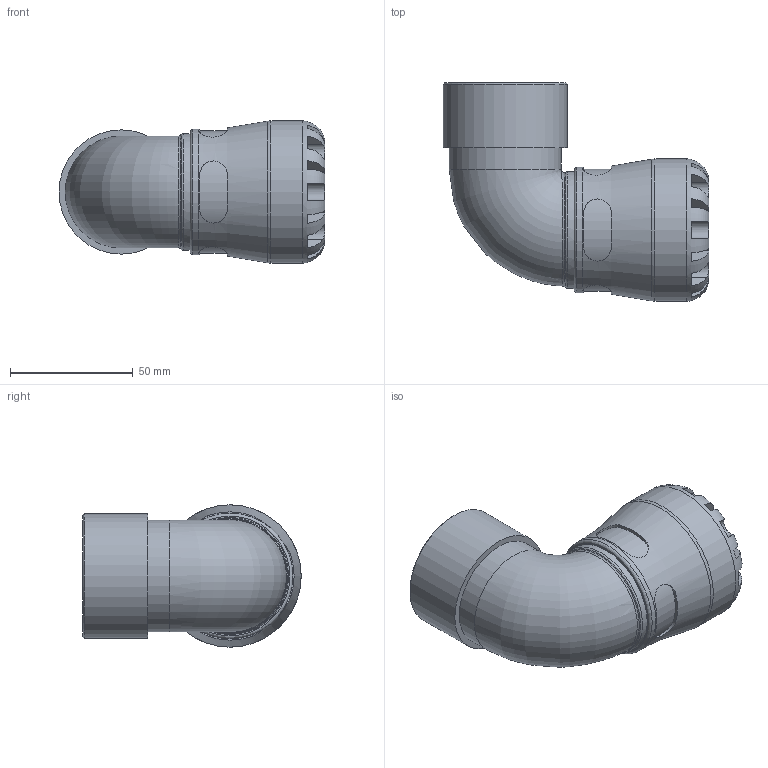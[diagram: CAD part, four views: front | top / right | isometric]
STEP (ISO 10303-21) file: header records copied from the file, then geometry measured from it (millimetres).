
FILE_DESCRIPTION(/* description */ ('PLASSON 90° ELBOW WITH THREADED FEMALE OFFTAKE 32X1.1/4" SERIES 1'),/* implementation_level */ '2;1');
FILE_NAME(/* name */ 'C:\Dropbox\KIMPROJECTS-Inventor\99-16-3568-Processing\S1\1015\101500032013_191500032013.ipt.stp',/* time_stamp */ '2017-07-30T11:52:00+03:00',/* author */ ('KIM'),/* organization */ (''),/* preprocessor_version */ 'ST-DEVELOPER v15.6',/* originating_system */ 'Autodesk Inventor 2015',/* authorisation */ '');
FILE_SCHEMA (('AUTOMOTIVE_DESIGN { 1 0 10303 214 3 1 1 }'));
Length unit declared in the file: millimetre
Products named in the file (1): 101500032013_191500032013
Bounding box: 108.32 x 89 x 58 mm (x, y, z)
Volume: 136729.6 mm3; surface area: 40019.5 mm2
Topology: 1 solids, 1 shells, 111 faces, 270 edges, 168 vertices
Faces by surface type: plane 62, cylinder 37, torus 6, bspline 4, cone 2
Full cylindrical faces by diameter (mm): 32 x1, 35.057 x2, 38.952 x1, 45.574 x1, 47.56 x1, 50.638 x1, 51.04 x1, 58 x1
Entity records: 4351 total; most frequent: CARTESIAN_POINT 1902, ORIENTED_EDGE 494, DIRECTION 488, EDGE_CURVE 247, AXIS2_PLACEMENT_3D 204, VERTEX_POINT 163, EDGE_LOOP 138, FACE_OUTER_BOUND 111
